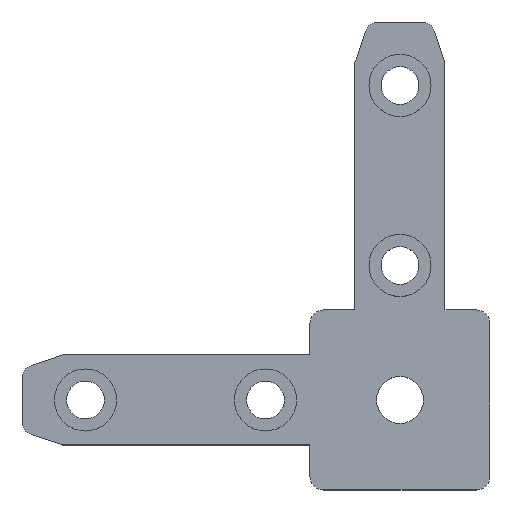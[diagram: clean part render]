
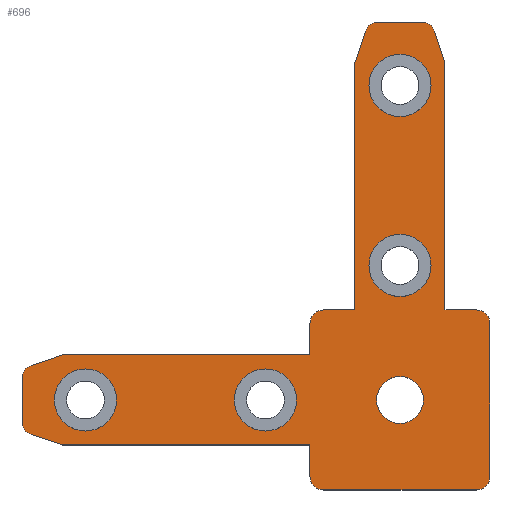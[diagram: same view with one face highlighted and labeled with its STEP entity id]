
A CAD part, top view. The second image highlights one B-rep face of the part: STEP entity #696.
In plain terms, the highlighted planar face has unit normal (0, 0, 1).
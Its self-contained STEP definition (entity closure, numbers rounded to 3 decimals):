
#15=FACE_BOUND('',#100,.T.);
#16=FACE_BOUND('',#101,.T.);
#17=FACE_BOUND('',#102,.T.);
#18=FACE_BOUND('',#103,.T.);
#19=FACE_BOUND('',#104,.T.);
#29=PLANE('',#767);
#60=FACE_OUTER_BOUND('',#99,.T.);
#99=EDGE_LOOP('',(#508,#509,#510,#511,#512,#513,#514,#515,#516,#517,#518,
#519,#520,#521,#522,#523,#524,#525,#526,#527,#528,#529,#530,#531));
#100=EDGE_LOOP('',(#532));
#101=EDGE_LOOP('',(#533));
#102=EDGE_LOOP('',(#534));
#103=EDGE_LOOP('',(#535));
#104=EDGE_LOOP('',(#536));
#152=LINE('',#1084,#217);
#153=LINE('',#1086,#218);
#154=LINE('',#1090,#219);
#155=LINE('',#1092,#220);
#156=LINE('',#1094,#221);
#157=LINE('',#1098,#222);
#158=LINE('',#1102,#223);
#159=LINE('',#1104,#224);
#160=LINE('',#1106,#225);
#161=LINE('',#1110,#226);
#162=LINE('',#1114,#227);
#163=LINE('',#1118,#228);
#164=LINE('',#1120,#229);
#165=LINE('',#1122,#230);
#166=LINE('',#1126,#231);
#167=LINE('',#1129,#232);
#217=VECTOR('',#880,1000.);
#218=VECTOR('',#881,1000.);
#219=VECTOR('',#884,1000.);
#220=VECTOR('',#885,1000.);
#221=VECTOR('',#886,1000.);
#222=VECTOR('',#889,1000.);
#223=VECTOR('',#892,1000.);
#224=VECTOR('',#893,1000.);
#225=VECTOR('',#894,1000.);
#226=VECTOR('',#897,1000.);
#227=VECTOR('',#900,1000.);
#228=VECTOR('',#903,1000.);
#229=VECTOR('',#904,1000.);
#230=VECTOR('',#905,1000.);
#231=VECTOR('',#908,1000.);
#232=VECTOR('',#911,1000.);
#281=CIRCLE('',#753,3.45);
#283=CIRCLE('',#756,3.45);
#285=CIRCLE('',#759,3.45);
#287=CIRCLE('',#762,3.45);
#289=CIRCLE('',#765,2.6);
#291=CIRCLE('',#768,1.5);
#292=CIRCLE('',#769,1.5);
#293=CIRCLE('',#770,1.5);
#294=CIRCLE('',#771,1.5);
#295=CIRCLE('',#772,1.5);
#296=CIRCLE('',#773,1.5);
#297=CIRCLE('',#774,1.5);
#298=CIRCLE('',#775,1.5);
#315=VERTEX_POINT('',#1052);
#317=VERTEX_POINT('',#1058);
#319=VERTEX_POINT('',#1064);
#321=VERTEX_POINT('',#1070);
#323=VERTEX_POINT('',#1076);
#325=VERTEX_POINT('',#1082);
#326=VERTEX_POINT('',#1083);
#327=VERTEX_POINT('',#1085);
#328=VERTEX_POINT('',#1087);
#329=VERTEX_POINT('',#1089);
#330=VERTEX_POINT('',#1091);
#331=VERTEX_POINT('',#1093);
#332=VERTEX_POINT('',#1095);
#333=VERTEX_POINT('',#1097);
#334=VERTEX_POINT('',#1099);
#335=VERTEX_POINT('',#1101);
#336=VERTEX_POINT('',#1103);
#337=VERTEX_POINT('',#1105);
#338=VERTEX_POINT('',#1107);
#339=VERTEX_POINT('',#1109);
#340=VERTEX_POINT('',#1111);
#341=VERTEX_POINT('',#1113);
#342=VERTEX_POINT('',#1115);
#343=VERTEX_POINT('',#1117);
#344=VERTEX_POINT('',#1119);
#345=VERTEX_POINT('',#1121);
#346=VERTEX_POINT('',#1123);
#347=VERTEX_POINT('',#1125);
#348=VERTEX_POINT('',#1127);
#385=EDGE_CURVE('',#315,#315,#281,.T.);
#388=EDGE_CURVE('',#317,#317,#283,.T.);
#391=EDGE_CURVE('',#319,#319,#285,.T.);
#394=EDGE_CURVE('',#321,#321,#287,.T.);
#397=EDGE_CURVE('',#323,#323,#289,.T.);
#400=EDGE_CURVE('',#325,#326,#152,.T.);
#401=EDGE_CURVE('',#326,#327,#153,.T.);
#402=EDGE_CURVE('',#327,#328,#291,.T.);
#403=EDGE_CURVE('',#328,#329,#154,.T.);
#404=EDGE_CURVE('',#329,#330,#155,.T.);
#405=EDGE_CURVE('',#330,#331,#156,.T.);
#406=EDGE_CURVE('',#331,#332,#292,.T.);
#407=EDGE_CURVE('',#332,#333,#157,.T.);
#408=EDGE_CURVE('',#333,#334,#293,.T.);
#409=EDGE_CURVE('',#334,#335,#158,.T.);
#410=EDGE_CURVE('',#335,#336,#159,.T.);
#411=EDGE_CURVE('',#336,#337,#160,.T.);
#412=EDGE_CURVE('',#337,#338,#294,.T.);
#413=EDGE_CURVE('',#338,#339,#161,.T.);
#414=EDGE_CURVE('',#339,#340,#295,.T.);
#415=EDGE_CURVE('',#340,#341,#162,.T.);
#416=EDGE_CURVE('',#341,#342,#296,.T.);
#417=EDGE_CURVE('',#342,#343,#163,.T.);
#418=EDGE_CURVE('',#343,#344,#164,.T.);
#419=EDGE_CURVE('',#344,#345,#165,.T.);
#420=EDGE_CURVE('',#345,#346,#297,.T.);
#421=EDGE_CURVE('',#346,#347,#166,.T.);
#422=EDGE_CURVE('',#347,#348,#298,.T.);
#423=EDGE_CURVE('',#348,#325,#167,.T.);
#508=ORIENTED_EDGE('',*,*,#400,.T.);
#509=ORIENTED_EDGE('',*,*,#401,.T.);
#510=ORIENTED_EDGE('',*,*,#402,.T.);
#511=ORIENTED_EDGE('',*,*,#403,.T.);
#512=ORIENTED_EDGE('',*,*,#404,.T.);
#513=ORIENTED_EDGE('',*,*,#405,.T.);
#514=ORIENTED_EDGE('',*,*,#406,.T.);
#515=ORIENTED_EDGE('',*,*,#407,.T.);
#516=ORIENTED_EDGE('',*,*,#408,.T.);
#517=ORIENTED_EDGE('',*,*,#409,.T.);
#518=ORIENTED_EDGE('',*,*,#410,.T.);
#519=ORIENTED_EDGE('',*,*,#411,.T.);
#520=ORIENTED_EDGE('',*,*,#412,.T.);
#521=ORIENTED_EDGE('',*,*,#413,.T.);
#522=ORIENTED_EDGE('',*,*,#414,.T.);
#523=ORIENTED_EDGE('',*,*,#415,.T.);
#524=ORIENTED_EDGE('',*,*,#416,.T.);
#525=ORIENTED_EDGE('',*,*,#417,.T.);
#526=ORIENTED_EDGE('',*,*,#418,.T.);
#527=ORIENTED_EDGE('',*,*,#419,.T.);
#528=ORIENTED_EDGE('',*,*,#420,.T.);
#529=ORIENTED_EDGE('',*,*,#421,.T.);
#530=ORIENTED_EDGE('',*,*,#422,.T.);
#531=ORIENTED_EDGE('',*,*,#423,.T.);
#532=ORIENTED_EDGE('',*,*,#397,.F.);
#533=ORIENTED_EDGE('',*,*,#391,.F.);
#534=ORIENTED_EDGE('',*,*,#385,.F.);
#535=ORIENTED_EDGE('',*,*,#388,.F.);
#536=ORIENTED_EDGE('',*,*,#394,.F.);
#696=ADVANCED_FACE('',(#60,#15,#16,#17,#18,#19),#29,.F.);
#753=AXIS2_PLACEMENT_3D('',#1053,#845,#846);
#756=AXIS2_PLACEMENT_3D('',#1059,#852,#853);
#759=AXIS2_PLACEMENT_3D('',#1065,#859,#860);
#762=AXIS2_PLACEMENT_3D('',#1071,#866,#867);
#765=AXIS2_PLACEMENT_3D('',#1077,#873,#874);
#767=AXIS2_PLACEMENT_3D('',#1081,#878,#879);
#768=AXIS2_PLACEMENT_3D('',#1088,#882,#883);
#769=AXIS2_PLACEMENT_3D('',#1096,#887,#888);
#770=AXIS2_PLACEMENT_3D('',#1100,#890,#891);
#771=AXIS2_PLACEMENT_3D('',#1108,#895,#896);
#772=AXIS2_PLACEMENT_3D('',#1112,#898,#899);
#773=AXIS2_PLACEMENT_3D('',#1116,#901,#902);
#774=AXIS2_PLACEMENT_3D('',#1124,#906,#907);
#775=AXIS2_PLACEMENT_3D('',#1128,#909,#910);
#845=DIRECTION('center_axis',(0.,0.,1.));
#846=DIRECTION('ref_axis',(-1.,0.,0.));
#852=DIRECTION('center_axis',(0.,0.,1.));
#853=DIRECTION('ref_axis',(-1.,0.,0.));
#859=DIRECTION('center_axis',(0.,0.,1.));
#860=DIRECTION('ref_axis',(-1.,0.,0.));
#866=DIRECTION('center_axis',(0.,0.,1.));
#867=DIRECTION('ref_axis',(-1.,0.,0.));
#873=DIRECTION('center_axis',(0.,0.,1.));
#874=DIRECTION('ref_axis',(1.,0.,0.));
#878=DIRECTION('center_axis',(0.,0.,-1.));
#879=DIRECTION('ref_axis',(-1.,0.,0.));
#880=DIRECTION('',(0.,-1.,0.));
#881=DIRECTION('',(-1.,0.,0.));
#882=DIRECTION('center_axis',(0.,0.,1.));
#883=DIRECTION('ref_axis',(-1.,0.,0.));
#884=DIRECTION('',(0.,-1.,0.));
#885=DIRECTION('',(-1.,0.,0.));
#886=DIRECTION('',(-0.949,-0.316,0.));
#887=DIRECTION('center_axis',(0.,0.,1.));
#888=DIRECTION('ref_axis',(1.,0.,0.));
#889=DIRECTION('',(0.,-1.,0.));
#890=DIRECTION('center_axis',(0.,0.,1.));
#891=DIRECTION('ref_axis',(-1.,0.,0.));
#892=DIRECTION('',(0.949,-0.316,0.));
#893=DIRECTION('',(1.,0.,0.));
#894=DIRECTION('',(0.,-1.,0.));
#895=DIRECTION('center_axis',(0.,0.,1.));
#896=DIRECTION('ref_axis',(-1.,0.,0.));
#897=DIRECTION('',(1.,0.,0.));
#898=DIRECTION('center_axis',(0.,0.,1.));
#899=DIRECTION('ref_axis',(1.,0.,0.));
#900=DIRECTION('',(0.,1.,0.));
#901=DIRECTION('center_axis',(0.,0.,1.));
#902=DIRECTION('ref_axis',(-1.,0.,0.));
#903=DIRECTION('',(-1.,0.,0.));
#904=DIRECTION('',(0.,1.,0.));
#905=DIRECTION('',(-0.316,0.949,0.));
#906=DIRECTION('center_axis',(0.,0.,1.));
#907=DIRECTION('ref_axis',(1.,0.,0.));
#908=DIRECTION('',(-1.,0.,0.));
#909=DIRECTION('center_axis',(0.,0.,1.));
#910=DIRECTION('ref_axis',(-1.,0.,0.));
#911=DIRECTION('',(-0.316,-0.949,0.));
#1052=CARTESIAN_POINT('',(-31.5,0.,1.6));
#1053=CARTESIAN_POINT('Origin',(-34.95,0.,1.6));
#1058=CARTESIAN_POINT('',(-11.5,0.,1.6));
#1059=CARTESIAN_POINT('Origin',(-14.95,0.,1.6));
#1064=CARTESIAN_POINT('',(3.45,34.95,1.6));
#1065=CARTESIAN_POINT('Origin',(0.,34.95,1.6));
#1070=CARTESIAN_POINT('',(3.45,14.95,1.6));
#1071=CARTESIAN_POINT('Origin',(0.,14.95,1.6));
#1076=CARTESIAN_POINT('',(2.6,0.,1.6));
#1077=CARTESIAN_POINT('Origin',(0.,0.,1.6));
#1081=CARTESIAN_POINT('Origin',(-2.419,40.5,1.6));
#1082=CARTESIAN_POINT('',(-5.,37.5,1.6));
#1083=CARTESIAN_POINT('',(-5.,10.,1.6));
#1084=CARTESIAN_POINT('',(-5.,10.,1.6));
#1085=CARTESIAN_POINT('',(-8.5,10.,1.6));
#1086=CARTESIAN_POINT('',(-8.5,10.,1.6));
#1087=CARTESIAN_POINT('',(-10.,8.5,1.6));
#1088=CARTESIAN_POINT('Origin',(-8.5,8.5,1.6));
#1089=CARTESIAN_POINT('',(-10.,5.,1.6));
#1090=CARTESIAN_POINT('',(-10.,5.,1.6));
#1091=CARTESIAN_POINT('',(-37.5,5.,1.6));
#1092=CARTESIAN_POINT('',(-10.,5.,1.6));
#1093=CARTESIAN_POINT('',(-40.974,3.842,1.6));
#1094=CARTESIAN_POINT('',(-37.5,5.,1.6));
#1095=CARTESIAN_POINT('',(-42.,2.419,1.6));
#1096=CARTESIAN_POINT('Origin',(-40.5,2.419,1.6));
#1097=CARTESIAN_POINT('',(-42.,-2.419,1.6));
#1098=CARTESIAN_POINT('',(-42.,2.419,1.6));
#1099=CARTESIAN_POINT('',(-40.974,-3.842,1.6));
#1100=CARTESIAN_POINT('Origin',(-40.5,-2.419,1.6));
#1101=CARTESIAN_POINT('',(-37.5,-5.,1.6));
#1102=CARTESIAN_POINT('',(-37.5,-5.,1.6));
#1103=CARTESIAN_POINT('',(-10.,-5.,1.6));
#1104=CARTESIAN_POINT('',(-10.,-5.,1.6));
#1105=CARTESIAN_POINT('',(-10.,-8.5,1.6));
#1106=CARTESIAN_POINT('',(-10.,-8.5,1.6));
#1107=CARTESIAN_POINT('',(-8.5,-10.,1.6));
#1108=CARTESIAN_POINT('Origin',(-8.5,-8.5,1.6));
#1109=CARTESIAN_POINT('',(8.5,-10.,1.6));
#1110=CARTESIAN_POINT('',(-8.5,-10.,1.6));
#1111=CARTESIAN_POINT('',(10.,-8.5,1.6));
#1112=CARTESIAN_POINT('Origin',(8.5,-8.5,1.6));
#1113=CARTESIAN_POINT('',(10.,8.5,1.6));
#1114=CARTESIAN_POINT('',(10.,-8.5,1.6));
#1115=CARTESIAN_POINT('',(8.5,10.,1.6));
#1116=CARTESIAN_POINT('Origin',(8.5,8.5,1.6));
#1117=CARTESIAN_POINT('',(5.,10.,1.6));
#1118=CARTESIAN_POINT('',(8.5,10.,1.6));
#1119=CARTESIAN_POINT('',(5.,37.5,1.6));
#1120=CARTESIAN_POINT('',(5.,10.,1.6));
#1121=CARTESIAN_POINT('',(3.842,40.974,1.6));
#1122=CARTESIAN_POINT('',(5.,37.5,1.6));
#1123=CARTESIAN_POINT('',(2.419,42.,1.6));
#1124=CARTESIAN_POINT('Origin',(2.419,40.5,1.6));
#1125=CARTESIAN_POINT('',(-2.419,42.,1.6));
#1126=CARTESIAN_POINT('',(-2.419,42.,1.6));
#1127=CARTESIAN_POINT('',(-3.842,40.974,1.6));
#1128=CARTESIAN_POINT('Origin',(-2.419,40.5,1.6));
#1129=CARTESIAN_POINT('',(-5.,37.5,1.6));
